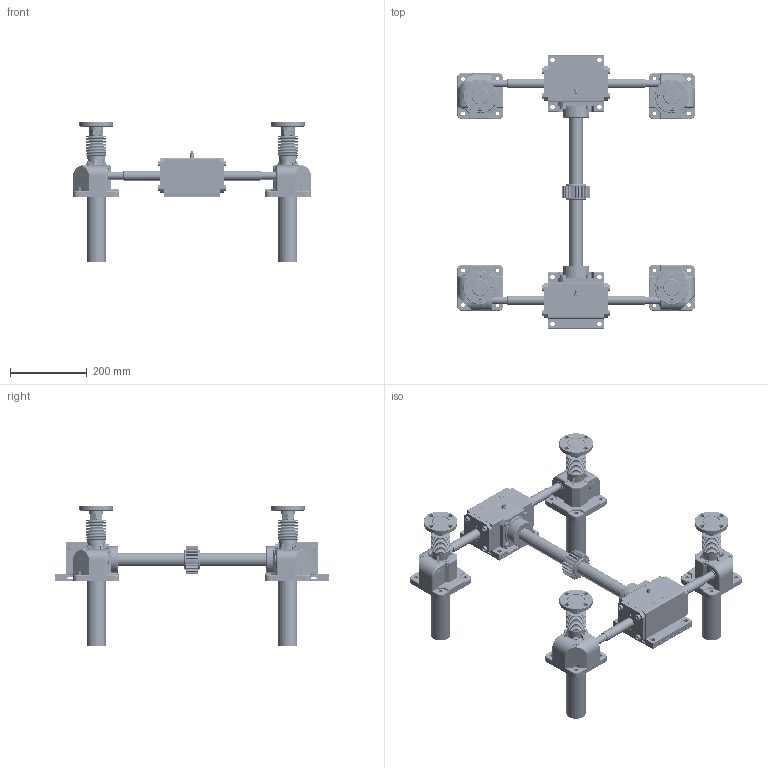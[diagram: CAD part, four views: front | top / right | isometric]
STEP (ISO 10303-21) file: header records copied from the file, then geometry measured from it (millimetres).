
FILE_DESCRIPTION(('STEP AP203'),'1');
FILE_NAME('SPM900FCJ-500x500-250-150ST_CAP.stp','2016-08-18T03:03:01',(' '),(' '),'Spatial InterOp 3D',' ',' ');
FILE_SCHEMA(('CONFIG_CONTROL_DESIGN'));
Length unit declared in the file: millimetre
Products named in the file (175): SPM900FCJ-500x500-250-150ST_CAP; Rack Gear(SP-900FC); Flange.1-Part; Flange.1; Joint.1; Nut.1; Flange.2-Part; Flange.2; Joint.2; Nut.2; Flange.3-Part; Flange.3; Joint.3; Nut.3; Flange.4-Part; Flange.4; Joint.4; Nut.4; Bellow(SP-900); Body.1-Part; Nipple; Bolt; Hole Cover(SP-900); Gear Box.1(Upper); Body_stand by; Gear Box.1(Lower); RJ05-4SCJ-610X600-100ST_CAP; LABEL-B.1; SUNIL __; 파트1; Body.2-Part; Gear Box.2(Upper); Gear Box.2(Lower); Body.3-Part; Gear Box.3(Upper); Gear Box.3(Lower); Body.4-Part; Gear Box.4(Upper); Gear Box.4(Lower); Cap.1-Part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
Assembly tree (178 placements, depth 6):
  SPM900FCJ-500x500-250-150ST_CAP
    Rack Gear(SP-900FC)  x4
    Flange.1-Part
      Flange.1
      Joint.1
      Nut.1
    Flange.2-Part
      Flange.2
      Joint.2
      Nut.2
    Flange.3-Part
      Flange.3
      Joint.3
      Nut.3
    Flange.4-Part
      Flange.4
      Joint.4
      Nut.4
    Bellow(SP-900)
    Bellow(SP-900)
    Bellow(SP-900)
    Bellow(SP-900)
    Body.1-Part
      Nipple
      Bolt
      Bolt
      Bolt
      Hole Cover(SP-900)
      Gear Box.1(Upper)
        Body_stand by
        Body_stand by
        Body_stand by
        Body_stand by
      Gear Box.1(Lower)
        Body_stand by
        Body_stand by
        Body_stand by
        Body_stand by
      SUNIL __
        RJ05-4SCJ-610X600-100ST_CAP
          LABEL-B.1
        파트1
    Body.2-Part
      Nipple
      Bolt
      Bolt
      Bolt
      Hole Cover(SP-900)
      Gear Box.2(Upper)
        Body_stand by
        Body_stand by
        Body_stand by
        Body_stand by
      Gear Box.2(Lower)
        Body_stand by
        Body_stand by
        Body_stand by
        Body_stand by
      SUNIL __
        RJ05-4SCJ-610X600-100ST_CAP
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Bounding box: 620.2 x 712.5 x 365 mm (x, y, z)
Volume: 4632070.7 mm3; surface area: 2035747 mm2
Topology: 158 solids, 3210 shells, 16795 faces, 54683 edges, 41300 vertices
Faces by surface type: plane 12915, cylinder 2538, torus 440, cone 430, bspline 184, extrusion 118, sphere 100, revolution 70
Full cylindrical faces by diameter (mm): 2.5 x8, 3.113 x4, 4.8 x2, 6 x6, 6.6 x4, 8 x60, 9.5 x24, 9.886 x2, 12 x32, 14 x12, 15 x24, 20 x4, 22.2 x4, 24.2 x8, 25 x10, 26 x4, 27 x4, 30 x60, 35 x1, 37 x6, 38 x4, 40 x6, 41 x4, 41.1 x4, 41.5 x4, 42 x6, 44 x4, 44.5 x4, 45 x10, 47 x4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
Entity records: 600181 total; most frequent: CARTESIAN_POINT 158264, DIRECTION 84507, ORIENTED_EDGE 84048, EDGE_CURVE 49888, VECTOR 39849, LINE 39731, VERTEX_POINT 38749, AXIS2_PLACEMENT_3D 22294
